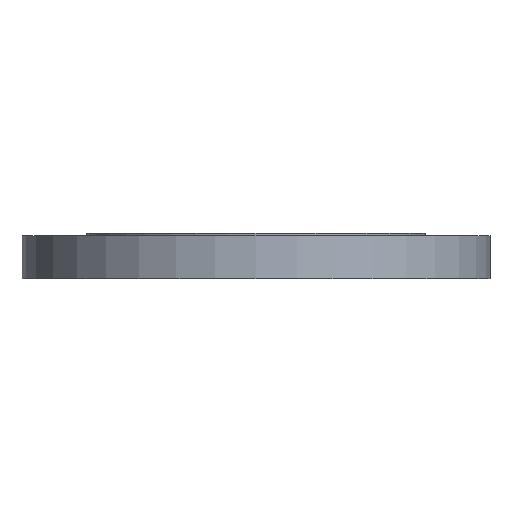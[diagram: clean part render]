
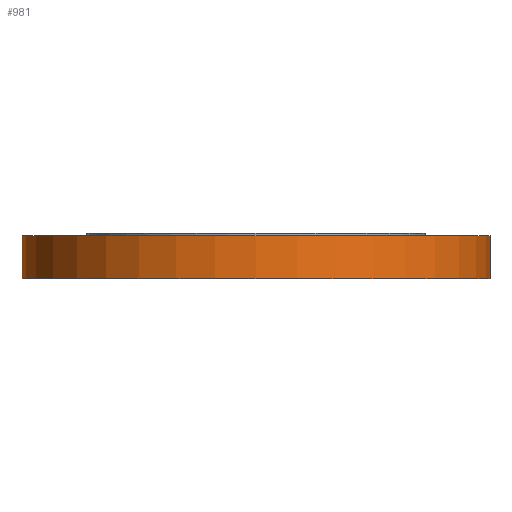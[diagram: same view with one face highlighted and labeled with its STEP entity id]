
A CAD part, front view. The second image highlights one B-rep face of the part: STEP entity #981.
In plain terms, the highlighted cylindrical face has radius 342.5 mm (diameter 685 mm), a partial arc.
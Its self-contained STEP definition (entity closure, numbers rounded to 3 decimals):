
#27 = CARTESIAN_POINT ( 'NONE',  ( 0., 0., -66. ) ) ;
#129 = VERTEX_POINT ( 'NONE', #1676 ) ;
#147 = AXIS2_PLACEMENT_3D ( 'NONE', #908, #1572, #162 ) ;
#160 = LINE ( 'NONE', #763, #456 ) ;
#162 = DIRECTION ( 'NONE',  ( 1., 0., 0. ) ) ;
#184 = ORIENTED_EDGE ( 'NONE', *, *, #1375, .T. ) ;
#188 = CARTESIAN_POINT ( 'NONE',  ( 342.5, 0., -150. ) ) ;
#312 = CYLINDRICAL_SURFACE ( 'NONE', #147, 342.5 ) ;
#317 = DIRECTION ( 'NONE',  ( 0., 0., -1. ) ) ;
#370 = AXIS2_PLACEMENT_3D ( 'NONE', #1695, #317, #914 ) ;
#384 = CIRCLE ( 'NONE', #370, 342.5 ) ;
#421 = AXIS2_PLACEMENT_3D ( 'NONE', #27, #622, #1243 ) ;
#430 = CIRCLE ( 'NONE', #421, 342.5 ) ;
#456 = VECTOR ( 'NONE', #1414, 1000. ) ;
#540 = VERTEX_POINT ( 'NONE', #644 ) ;
#622 = DIRECTION ( 'NONE',  ( 0., 0., -1. ) ) ;
#644 = CARTESIAN_POINT ( 'NONE',  ( -342.5, 0., -3. ) ) ;
#673 = EDGE_LOOP ( 'NONE', ( #1442, #787, #184, #929 ) ) ;
#763 = CARTESIAN_POINT ( 'NONE',  ( -342.5, 0., -150. ) ) ;
#787 = ORIENTED_EDGE ( 'NONE', *, *, #1322, .F. ) ;
#791 = DIRECTION ( 'NONE',  ( 0., 0., 1. ) ) ;
#908 = CARTESIAN_POINT ( 'NONE',  ( 0., 0., -150. ) ) ;
#914 = DIRECTION ( 'NONE',  ( -1., 0., 0. ) ) ;
#929 = ORIENTED_EDGE ( 'NONE', *, *, #1327, .T. ) ;
#981 = ADVANCED_FACE ( 'NONE', ( #1691 ), #312, .T. ) ;
#1073 = CARTESIAN_POINT ( 'NONE',  ( -342.5, 0., -66. ) ) ;
#1243 = DIRECTION ( 'NONE',  ( -1., 0., 0. ) ) ;
#1318 = EDGE_CURVE ( 'NONE', #1690, #540, #160, .T. ) ;
#1322 = EDGE_CURVE ( 'NONE', #129, #1690, #430, .T. ) ;
#1327 = EDGE_CURVE ( 'NONE', #1834, #540, #384, .T. ) ;
#1344 = VECTOR ( 'NONE', #791, 1000. ) ;
#1375 = EDGE_CURVE ( 'NONE', #129, #1834, #1596, .T. ) ;
#1414 = DIRECTION ( 'NONE',  ( 0., 0., 1. ) ) ;
#1442 = ORIENTED_EDGE ( 'NONE', *, *, #1318, .F. ) ;
#1572 = DIRECTION ( 'NONE',  ( 0., 0., 1. ) ) ;
#1596 = LINE ( 'NONE', #188, #1344 ) ;
#1676 = CARTESIAN_POINT ( 'NONE',  ( 342.5, 0., -66. ) ) ;
#1690 = VERTEX_POINT ( 'NONE', #1073 ) ;
#1691 = FACE_OUTER_BOUND ( 'NONE', #673, .T. ) ;
#1695 = CARTESIAN_POINT ( 'NONE',  ( 0., 0., -3. ) ) ;
#1700 = CARTESIAN_POINT ( 'NONE',  ( 342.5, 0., -3. ) ) ;
#1834 = VERTEX_POINT ( 'NONE', #1700 ) ;
